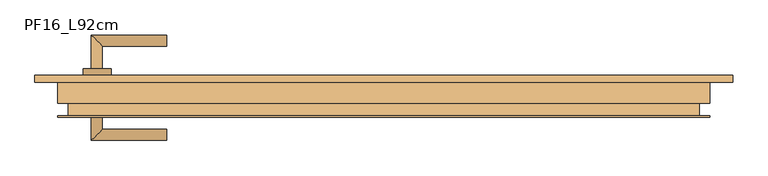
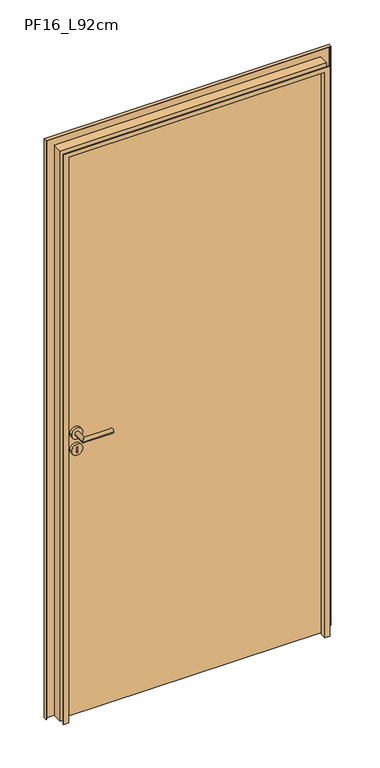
"""IFC4 building model written with IfcOpenShell, lengths in millimetres: door geometry, FDE_PF15_PF16_PF17_PortaemChapadeFerro : PF16_L92cm."""

from ifc_helpers import new_model, si_unit, point, frame, frame_2d, origin, place, context, project, spatial, polyline, circle_curve, ellipse_curve, trimmed, segment, composite_curve, outline, extrude, faceted_brep, source, transform, mapped, element, save
from ifc_brep_helpers import plane_surface, cylinder_surface, advanced_brep


def pf16_l92cm_bd960443(model_context):
    return source(origin(), model_context, "Body", "SolidModel", [
        extrude(outline(composite_curve([segment(trimmed(circle_curve(frame_2d((989.994466, -411.0)), 20.0), [point((989.994466, -431.0))], [point((989.994466, -391.0))], False, "CARTESIAN"), True, "CONTINUOUS"), segment(trimmed(circle_curve(frame_2d((989.994466, -411.0)), 20.0), [point((989.994466, -391.0))], [point((989.994466, -431.0))], False, "CARTESIAN"), True, "CONTINUOUS")], self_intersect=False), holes=[polyline([(1000.1515067, -408.7045566), (980.1515067, -408.7045566), (980.1515067, -413.7045566), (1000.1515067, -413.7045566), (1000.1515067, -408.7045566)])]), frame((0.0, 35.0, 0.0), z_axis=(0.0, 1.0, 0.0), x_axis=(0.0, 0.0, 1.0)), (0.0, 0.0, 1.0), 10.0),
        advanced_brep(
        [(-403.2045566, 45.0, 1050.0), (-419.2045566, 45.0, 1050.0), (-419.2045566, 93.0, 1050.0), (-403.2045566, 77.0, 1050.0), (-311.2045566, 77.0, 1050.0), (-311.2045566, 93.0, 1050.0)],
        [
            (0, 1, circle_curve(frame((-411.2045566, 45.0, 1050.0), z_axis=(0.0, -1.0, 0.0), x_axis=(-1.0, 0.0, 0.0)), 8.0)),
            (1, 0, circle_curve(frame((-411.2045566, 45.0, 1050.0), z_axis=(0.0, -1.0, 0.0), x_axis=(-1.0, 0.0, 0.0)), 8.0)),
            (1, 2),
            (2, 3, ellipse_curve(frame((-411.2045566, 85.0, 1050.0), z_axis=(-0.707106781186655, -0.7071067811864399, 0.0), x_axis=(0.7071067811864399, -0.7071067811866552, 0.0)), 11.3137085, 8.0)),
            (3, 0),
            (3, 2, ellipse_curve(frame((-411.2045566, 85.0, 1050.0), z_axis=(-0.707106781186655, -0.7071067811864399, 0.0), x_axis=(0.7071067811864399, -0.7071067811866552, 0.0)), 11.3137085, 8.0)),
            (4, 5, circle_curve(frame((-311.2045566, 85.0, 1050.0), z_axis=(1.0, 0.0, 0.0), x_axis=(0.0, 1.0, 0.0)), 8.0)),
            (5, 4, circle_curve(frame((-311.2045566, 85.0, 1050.0), z_axis=(1.0, 0.0, 0.0), x_axis=(0.0, 1.0, 0.0)), 8.0)),
            (2, 5),
            (4, 3),
        ],
        [
            plane_surface(frame((-411.2045566, 45.0, 1050.0), z_axis=(0.0, -1.0, 0.0), x_axis=(0.0, 0.0, 1.0))),
            cylinder_surface(frame((-411.2045566, 45.0, 1050.0), z_axis=(0.0, -1.0, 0.0), x_axis=(-1.0, 0.0, 0.0)), 8.0),
            plane_surface(frame((-311.2045566, 85.0, 1050.0), z_axis=(1.0, 0.0, 0.0), x_axis=(0.0, 0.0, 1.0))),
            cylinder_surface(frame((-411.2045566, 85.0, 1050.0), z_axis=(-1.0, 0.0, 0.0), x_axis=(0.0, 1.0, 0.0)), 8.0),
        ],
        [
            (0, [[1, 2]]),
            (1, [[-2, 3, 4, 5]]),
            (1, [[-1, -5, 6, -3]]),
            (2, [[7, 8]]),
            (3, [[-4, 9, -7, 10]]),
            (3, [[-6, -10, -8, -9]]),
        ],
    ),
        extrude(outline(composite_curve([segment(trimmed(circle_curve(frame_2d((1050.0, -411.0)), 20.0), [point((1050.0, -431.0))], [point((1050.0, -391.0))], False, "CARTESIAN"), True, "CONTINUOUS"), segment(trimmed(circle_curve(frame_2d((1050.0, -411.0)), 20.0), [point((1050.0, -391.0))], [point((1050.0, -431.0))], False, "CARTESIAN"), True, "CONTINUOUS")], self_intersect=False)), frame((0.0, 35.0, 0.0), z_axis=(0.0, 1.0, 0.0), x_axis=(0.0, 0.0, 1.0)), (0.0, 0.0, 1.0), 10.0),
        extrude(outline(composite_curve([segment(trimmed(circle_curve(frame_2d((989.994466, -411.0)), 20.0), [point((989.994466, -431.0))], [point((989.994466, -391.0))], False, "CARTESIAN"), True, "CONTINUOUS"), segment(trimmed(circle_curve(frame_2d((989.994466, -411.0)), 20.0), [point((989.994466, -391.0))], [point((989.994466, -431.0))], False, "CARTESIAN"), True, "CONTINUOUS")], self_intersect=False), holes=[polyline([(1000.1515067, -408.7045566), (980.1515067, -408.7045566), (980.1515067, -413.7045566), (1000.1515067, -413.7045566), (1000.1515067, -408.7045566)])]), frame((0.0, -10.0, 0.0), z_axis=(0.0, 1.0, 0.0), x_axis=(0.0, 0.0, 1.0)), (0.0, 0.0, 1.0), 10.0),
        advanced_brep(
        [(-419.2045566, -10.0, 1050.0), (-403.2045566, -10.0, 1050.0), (-419.2045566, -58.0, 1050.0), (-403.2045566, -42.0, 1050.0), (-311.2045566, -58.0, 1050.0), (-311.2045566, -42.0, 1050.0)],
        [
            (0, 1, circle_curve(frame((-411.2045566, -10.0, 1050.0), z_axis=(0.0, 1.0, 0.0), x_axis=(1.0, 0.0, 0.0)), 8.0)),
            (1, 0, circle_curve(frame((-411.2045566, -10.0, 1050.0), z_axis=(0.0, 1.0, 0.0), x_axis=(1.0, 0.0, 0.0)), 8.0)),
            (0, 2),
            (2, 3, ellipse_curve(frame((-411.2045566, -50.0, 1050.0), z_axis=(-0.7071067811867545, 0.7071067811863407, 0.0), x_axis=(0.7071067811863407, 0.7071067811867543, 0.0)), 11.3137085, 8.0)),
            (3, 1),
            (3, 2, ellipse_curve(frame((-411.2045566, -50.0, 1050.0), z_axis=(-0.7071067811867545, 0.7071067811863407, 0.0), x_axis=(0.7071067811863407, 0.7071067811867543, 0.0)), 11.3137085, 8.0)),
            (4, 5, circle_curve(frame((-311.2045566, -50.0, 1050.0), z_axis=(1.0, 0.0, 0.0), x_axis=(0.0, 1.0, 0.0)), 8.0)),
            (5, 4, circle_curve(frame((-311.2045566, -50.0, 1050.0), z_axis=(1.0, 0.0, 0.0), x_axis=(0.0, 1.0, 0.0)), 8.0)),
            (2, 4),
            (5, 3),
        ],
        [
            plane_surface(frame((-411.2045566, -10.0, 1050.0), z_axis=(0.0, 1.0, 0.0), x_axis=(0.0, 0.0, 1.0))),
            cylinder_surface(frame((-411.2045566, -10.0, 1050.0), z_axis=(0.0, 1.0, 0.0), x_axis=(1.0, 0.0, 0.0)), 8.0),
            plane_surface(frame((-311.2045566, -50.0, 1050.0), z_axis=(1.0, 0.0, 0.0), x_axis=(0.0, 0.0, 1.0))),
            cylinder_surface(frame((-411.2045566, -50.0, 1050.0), z_axis=(-1.0, 0.0, 0.0), x_axis=(0.0, 1.0, 0.0)), 8.0),
        ],
        [
            (0, [[1, 2]]),
            (1, [[-1, 3, 4, 5]]),
            (1, [[-2, -5, 6, -3]]),
            (2, [[7, 8]]),
            (3, [[-4, 9, -8, 10]]),
            (3, [[-6, -10, -7, -9]]),
        ],
    ),
        extrude(outline(composite_curve([segment(trimmed(circle_curve(frame_2d((1050.0, -411.0)), 20.0), [point((1050.0, -431.0))], [point((1050.0, -391.0))], False, "CARTESIAN"), True, "CONTINUOUS"), segment(trimmed(circle_curve(frame_2d((1050.0, -411.0)), 20.0), [point((1050.0, -391.0))], [point((1050.0, -431.0))], False, "CARTESIAN"), True, "CONTINUOUS")], self_intersect=False)), frame((0.0, -10.0, 0.0), z_axis=(0.0, 1.0, 0.0), x_axis=(0.0, 0.0, 1.0)), (0.0, 0.0, 1.0), 10.0),
        extrude(outline(polyline([(460.0, 35.0), (460.0, 0.0), (-460.0, 0.0), (-460.0, 35.0), (460.0, 35.0)])), frame((0.0, 0.0, 5.0), z_axis=(0.0, 0.0, 1.0), x_axis=(1.0, 0.0, 0.0)), (0.0, 0.0, 1.0), 2100.0),
        faceted_brep([(500.0, 35.0, 0.0), (500.0, 25.0, 0.0), (498.0, 25.0, 0.0), (498.0, 33.0, 0.0), (467.0, 33.0, 0.0), (467.0, -5.0, 0.0), (452.0, -5.0, 0.0), (452.0, -23.0, 0.0), (467.0, -23.0, 0.0), (467.0, -25.0, 0.0), (450.0, -25.0, 0.0), (450.0, -3.0, 0.0), (465.0, -3.0, 0.0), (465.0, 35.0, 0.0), (500.0, 35.0, 2145.0), (500.0, 25.0, 2145.0), (-500.0, 25.0, 2145.0), (-500.0, 25.0, 0.0), (-498.0, 25.0, 0.0), (-498.0, 25.0, 2143.0), (498.0, 25.0, 2143.0), (498.0, 33.0, 2143.0), (-498.0, 33.0, 2143.0), (-498.0, 33.0, 0.0), (-467.0, 33.0, 0.0), (-467.0, 33.0, 2112.0), (467.0, 33.0, 2112.0), (467.0, -5.0, 2112.0), (-467.0, -5.0, 2112.0), (-467.0, -5.0, 0.0), (-452.0, -5.0, 0.0), (-452.0, -5.0, 2097.0), (452.0, -5.0, 2097.0), (452.0, -23.0, 2097.0), (-452.0, -23.0, 2097.0), (-452.0, -23.0, 0.0), (-467.0, -23.0, 0.0), (-467.0, -23.0, 2112.0), (467.0, -23.0, 2112.0), (467.0, -25.0, 2112.0), (-467.0, -25.0, 2112.0), (-467.0, -25.0, 0.0), (-450.0, -25.0, 0.0), (-450.0, -25.0, 2095.0), (450.0, -25.0, 2095.0), (450.0, -3.0, 2095.0), (-450.0, -3.0, 2095.0), (-450.0, -3.0, 0.0), (-465.0, -3.0, 0.0), (-465.0, -3.0, 2110.0), (465.0, -3.0, 2110.0), (465.0, 35.0, 2110.0), (-465.0, 35.0, 2110.0), (-465.0, 35.0, 0.0), (-500.0, 35.0, 0.0), (-500.0, 35.0, 2145.0)], [[[0, 1, 2, 3, 4, 5, 6, 7, 8, 9, 10, 11, 12, 13]], [[1, 0, 14, 15]], [[2, 1, 15, 16, 17, 18, 19, 20]], [[3, 2, 20, 21]], [[4, 3, 21, 22, 23, 24, 25, 26]], [[5, 4, 26, 27]], [[6, 5, 27, 28, 29, 30, 31, 32]], [[7, 6, 32, 33]], [[8, 7, 33, 34, 35, 36, 37, 38]], [[9, 8, 38, 39]], [[10, 9, 39, 40, 41, 42, 43, 44]], [[11, 10, 44, 45]], [[12, 11, 45, 46, 47, 48, 49, 50]], [[13, 12, 50, 51]], [[0, 13, 51, 52, 53, 54, 55, 14]], [[16, 55, 54, 17]], [[54, 53, 48, 47, 42, 41, 36, 35, 30, 29, 24, 23, 18, 17]], [[22, 19, 18, 23]], [[28, 25, 24, 29]], [[34, 31, 30, 35]], [[40, 37, 36, 41]], [[46, 43, 42, 47]], [[52, 49, 48, 53]], [[15, 14, 55, 16]], [[21, 20, 19, 22]], [[27, 26, 25, 28]], [[33, 32, 31, 34]], [[39, 38, 37, 40]], [[45, 44, 43, 46]], [[51, 50, 49, 52]]]),
    ])


if __name__ == "__main__":
    model = new_model("IFC4")
    model_context = context("Model", 3, world=origin())
    ifc_project = project(units=[si_unit("LENGTHUNIT", "METRE", prefix="MILLI")], contexts=[model_context])
    site = spatial("IfcSite", under=ifc_project)
    building = spatial("IfcBuilding", under=site)
    placement = place(None, origin())
    pf16_l92cm_shape = pf16_l92cm_bd960443(model_context)
    element("IfcDoor", 1, ObjectType="FDE_PF15_PF16_PF17_PortaemChapadeFerro : PF16_L92cm", at=placement, inside=building, context=model_context, shape_type="MappedRepresentation", body=[
        mapped(pf16_l92cm_shape, transform((0.0, 0.0, 0.0), x_axis=(1.0, 0.0, 0.0), y_axis=(0.0, 1.0, 0.0), z_axis=(0.0, 0.0, 1.0))),
    ])
    save(model, "model.ifc")
